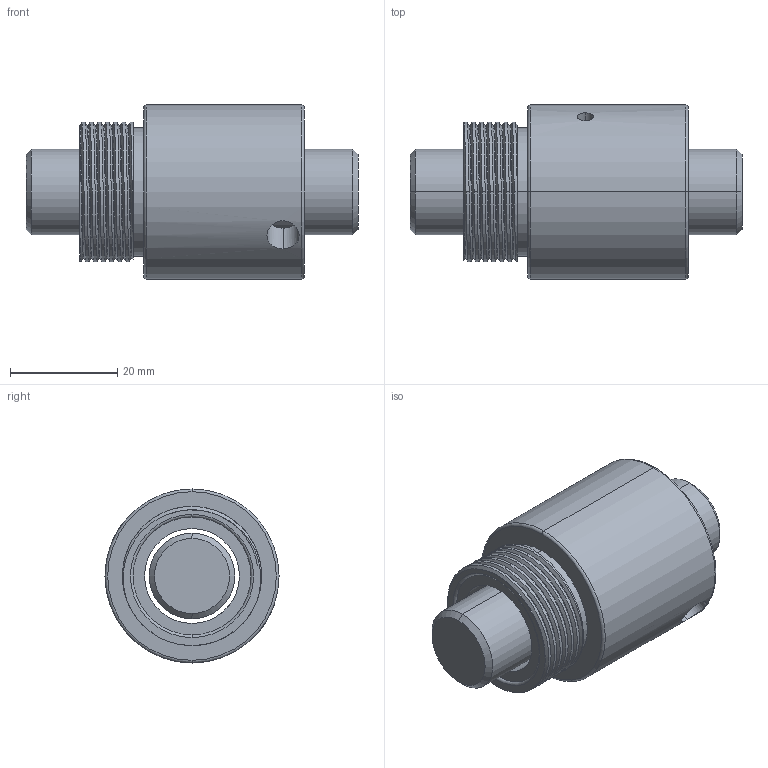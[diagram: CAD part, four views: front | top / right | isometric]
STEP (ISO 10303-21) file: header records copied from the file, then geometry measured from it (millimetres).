
FILE_DESCRIPTION (( 'STEP AP203' ), '1' );
FILE_NAME ('BSHR01605T3-C.STEP', '2020-06-17T06:59:50', ( '' ), ( '' ), 'SwSTEP 2.0', 'SolidWorks 2013', '' );
FILE_SCHEMA (( 'CONFIG_CONTROL_DESIGN' ));
Length unit declared in the file: millimetre
Products named in the file (1): BSHR01605T3-C
Bounding box: 62 x 32.5 x 32.5 mm (x, y, z)
Volume: 32600.1 mm3; surface area: 11541 mm2
Topology: 2 solids, 2 shells, 52 faces, 122 edges, 77 vertices
Faces by surface type: cylinder 27, torus 8, plane 8, cone 6, bspline 3
Entity records: 3141 total; most frequent: CARTESIAN_POINT 1956, ORIENTED_EDGE 240, DIRECTION 224, EDGE_CURVE 120, AXIS2_PLACEMENT_3D 96, VERTEX_POINT 77, EDGE_LOOP 61, ADVANCED_FACE 52
